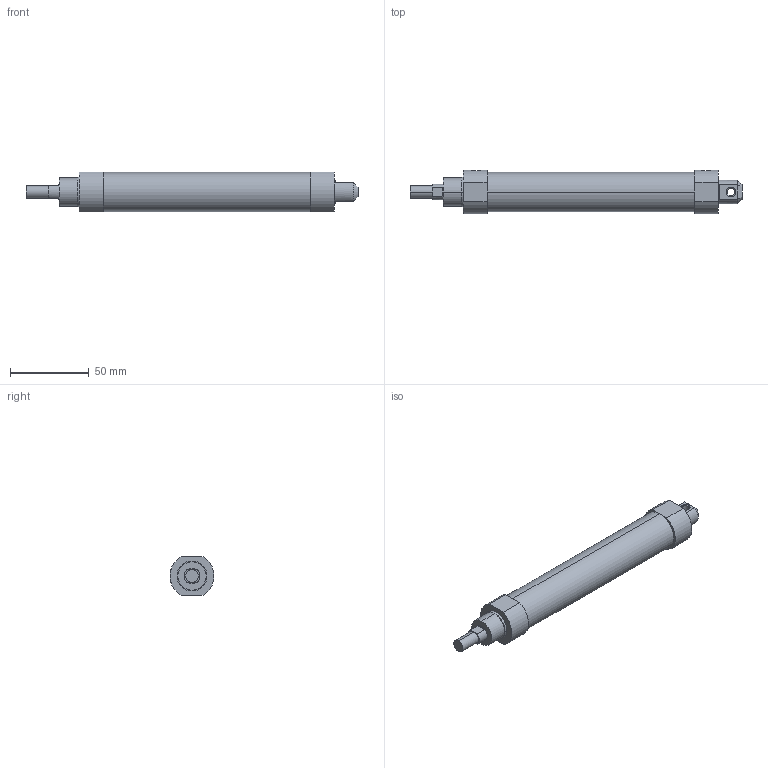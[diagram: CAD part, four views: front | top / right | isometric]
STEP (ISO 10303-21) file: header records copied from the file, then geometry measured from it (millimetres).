
FILE_DESCRIPTION (( 'STEP AP203' ), '1' );
FILE_NAME ('J#2-20-100-C.STEP', '2016-03-08T07:01:37', ( '' ), ( '' ), 'SwSTEP 2.0', 'SolidWorks 2014', '' );
FILE_SCHEMA (( 'CONFIG_CONTROL_DESIGN' ));
Length unit declared in the file: millimetre
Products named in the file (1): J#2-20-100-C
Bounding box: 211 x 27.95 x 25 mm (x, y, z)
Volume: 87494.9 mm3; surface area: 17118.4 mm2
Topology: 1 solids, 1 shells, 56 faces, 124 edges, 76 vertices
Faces by surface type: plane 28, cylinder 22, cone 6
Entity records: 1751 total; most frequent: CARTESIAN_POINT 401, DIRECTION 284, ORIENTED_EDGE 248, EDGE_CURVE 124, AXIS2_PLACEMENT_3D 111, VERTEX_POINT 76, EDGE_LOOP 64, LINE 62
